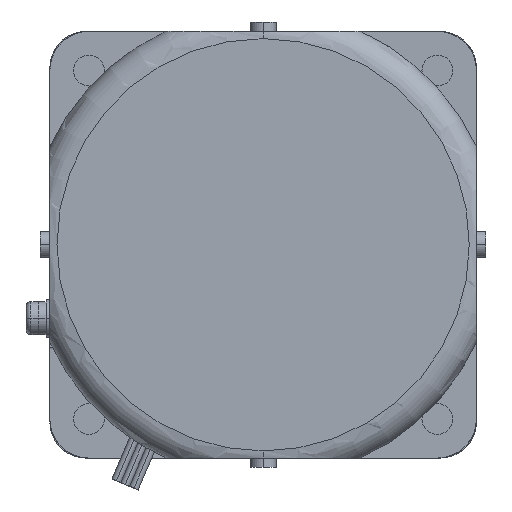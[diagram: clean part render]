
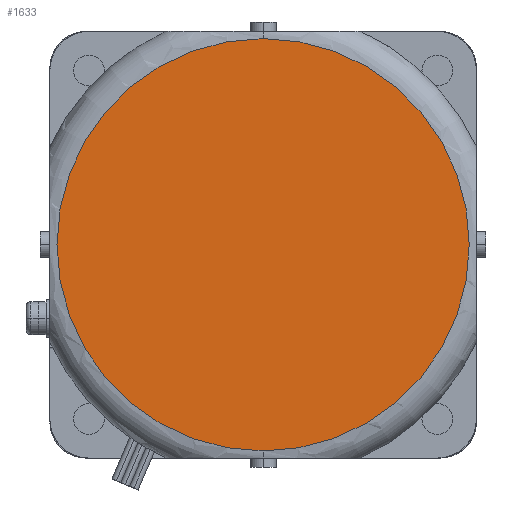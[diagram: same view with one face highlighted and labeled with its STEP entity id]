
A CAD part, left-side view. The second image highlights one B-rep face of the part: STEP entity #1633.
In plain terms, the highlighted planar face has unit normal (-1, 0, 0).
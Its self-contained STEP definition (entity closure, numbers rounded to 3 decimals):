
#1613=CARTESIAN_POINT('POINT169285',(-200.,0.,
   25.5));
#1614=VERTEX_POINT('VERTEX169285',#1613);
#1615=CARTESIAN_POINT('POINT169286',(-200.,0.,
   -61.5));
#1616=VERTEX_POINT('VERTEX169286',#1615);
#1617=CARTESIAN_POINT('POS276757',(-200.,0.,-18.));
#1618=DIRECTION('DIR417527',(-1.,0.,0.));
#1619=DIRECTION('DIR417528',(0.,0.,-1.));
#1620=AXIS2_PLACEMENT_3D('AXIS140771',#1617,#1618,#1619);
#1621=CIRCLE('ELLIPSE66626',#1620,43.5);
#1622=EDGE_CURVE('EDGE258978',#1614,#1616,#1621,.T.);
#1623=ORIENTED_EDGE('COEDGE517931',*,*,#1622,.T.);
#1624=EDGE_CURVE('EDGE258979',#1616,#1614,#1621,.T.);
#1625=ORIENTED_EDGE('COEDGE517932',*,*,#1624,.T.);
#1626=EDGE_LOOP('NONE',(#1623,#1625));
#1627=FACE_BOUND('LOOP1',#1626,.T.);
#1628=CARTESIAN_POINT('POS276758',(-200.,0.,
   4.25));
#1629=DIRECTION('DIR417529',(-1.,0.,0.));
#1630=DIRECTION('DIR417530',(0.,1.,0.));
#1631=AXIS2_PLACEMENT_3D('AXIS140772',#1628,#1629,#1630);
#1632=PLANE('PLANE44737',#1631);
#1633=ADVANCED_FACE('FACE106411',(#1627),#1632,.T.);
